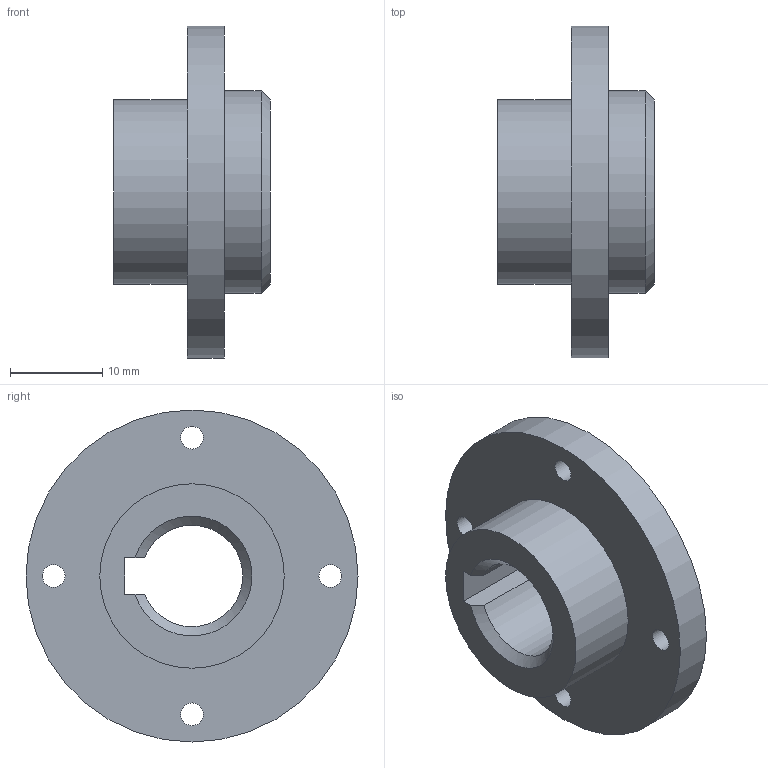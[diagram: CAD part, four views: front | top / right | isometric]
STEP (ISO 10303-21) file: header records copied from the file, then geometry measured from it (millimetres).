
FILE_DESCRIPTION(/* description */ (''),/* implementation_level */ '2;1');
FILE_NAME(/* name */ '',/* time_stamp */ '2026-08-27T17:02:20+09:00',/* author */ ('jhkim'),/* organization */ (''),/* preprocessor_version */ 'ST-DEVELOPER v20.1',/* originating_system */ 'Autodesk Inventor 2027',/* authorisation */ '');
FILE_SCHEMA (('AUTOMOTIVE_DESIGN { 1 0 10303 214 3 1 1 }'));
Length unit declared in the file: millimetre
Products named in the file (1): 플랜지
Bounding box: 17 x 36 x 36 mm (x, y, z)
Volume: 6613.3 mm3; surface area: 3817 mm2
Topology: 1 solids, 1 shells, 17 faces, 39 edges, 26 vertices
Faces by surface type: cylinder 8, plane 7, cone 2
Full cylindrical faces by diameter (mm): 2.459 x4, 20 x1, 22 x1, 36 x1
Entity records: 553 total; most frequent: DIRECTION 92, CARTESIAN_POINT 87, ORIENTED_EDGE 78, EDGE_CURVE 39, AXIS2_PLACEMENT_3D 37, EDGE_LOOP 29, VERTEX_POINT 26, CIRCLE 19
